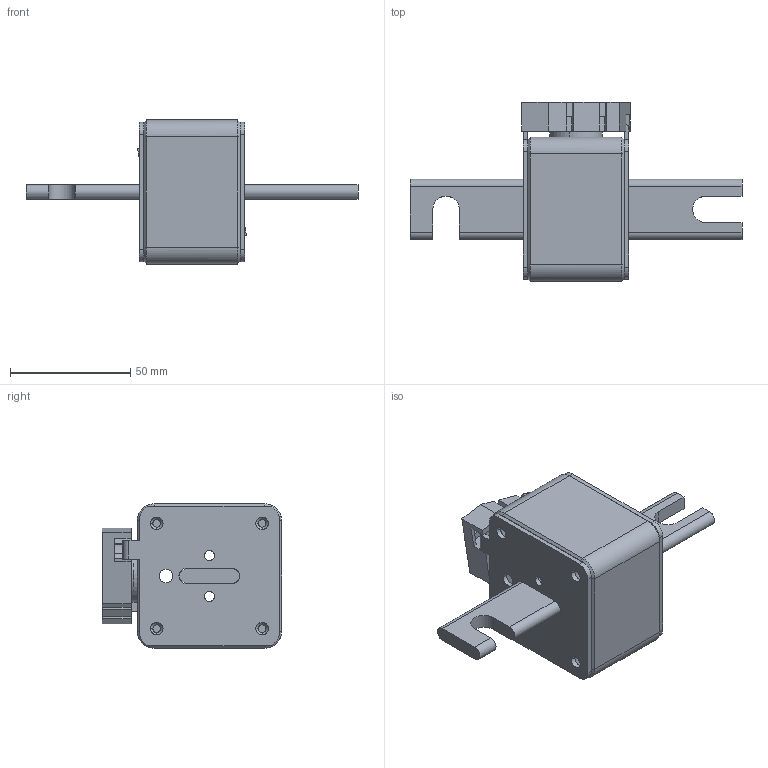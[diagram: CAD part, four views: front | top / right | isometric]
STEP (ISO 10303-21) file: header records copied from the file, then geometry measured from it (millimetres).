
FILE_DESCRIPTION (( 'STEP AP214' ), '1' );
FILE_NAME ('OptiFuse FR-S32_D11.STEP', '2024-03-01T08:26:55', ( '' ), ( '' ), 'SwSTEP 2.0', 'SolidWorks 2018', '' );
FILE_SCHEMA (( 'AUTOMOTIVE_DESIGN' ));
Length unit declared in the file: millimetre
Products named in the file (1): OptiFuse FR-S32_D11
Bounding box: 138 x 74.5 x 60 mm (x, y, z)
Volume: 106760.3 mm3; surface area: 48020.4 mm2
Topology: 8 solids, 8 shells, 336 faces, 842 edges, 542 vertices
Faces by surface type: plane 159, cylinder 127, cone 40, torus 10
Entity records: 14749 total; most frequent: CARTESIAN_POINT 2917, ORIENTED_EDGE 1684, DIRECTION 1598, EDGE_CURVE 842, AXIS2_PLACEMENT_3D 579, VERTEX_POINT 542, VECTOR 440, LINE 440
